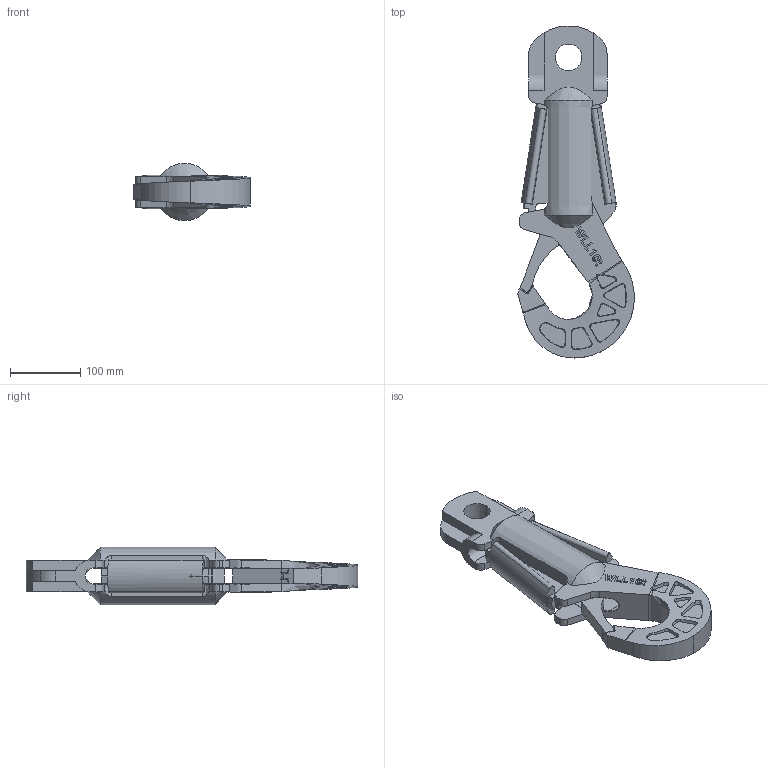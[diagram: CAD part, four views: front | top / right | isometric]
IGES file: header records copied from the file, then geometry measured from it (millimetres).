
Start section:  PTC IGES file: 001-m36094-p7.igs
Global section: file name: 001-m36094-p7.igs; native system: Pro/ENGINEER by Parametric Technology Corporation; preprocessor: 2011490; author: jonas.geis; organization: Unknown; date: 20191112.140739; units: millimetre
Bounding box: 166.69 x 473.79 x 82 mm (x, y, z)
Volume: 1735633.5 mm3; surface area: 231496.2 mm2
Topology: 3 solids, 5 shells, 524 faces, 1433 edges, 948 vertices
Faces by surface type: bspline 334, revolution 101, extrusion 89
